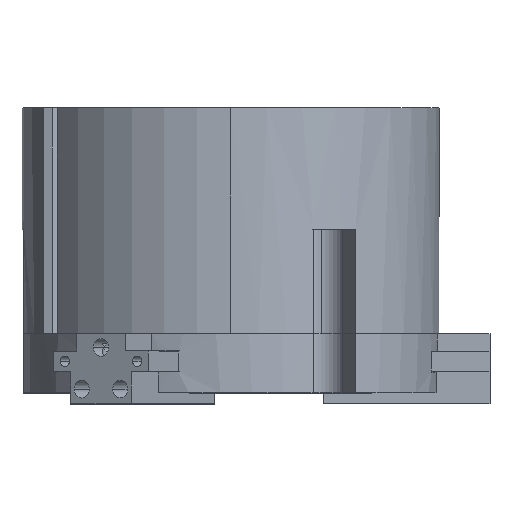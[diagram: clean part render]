
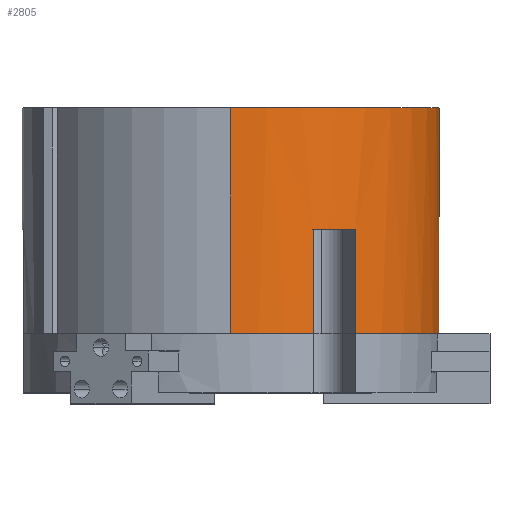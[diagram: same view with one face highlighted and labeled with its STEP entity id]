
A CAD part, top view. The second image highlights one B-rep face of the part: STEP entity #2805.
In plain terms, the highlighted cylindrical face has radius 47.625 mm (diameter 95.25 mm), a partial arc.
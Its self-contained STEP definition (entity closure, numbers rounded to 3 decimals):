
#90 = VERTEX_POINT ( 'NONE', #4009 ) ;
#157 = CIRCLE ( 'NONE', #6486, 47.625 ) ;
#198 = EDGE_LOOP ( 'NONE', ( #3920, #5686, #7518, #6108, #7153, #1523, #5108, #1444, #4834, #3860, #5169, #7348 ) ) ;
#259 = EDGE_CURVE ( 'NONE', #4923, #3107, #5525, .T. ) ;
#352 = VECTOR ( 'NONE', #5604, 1000. ) ;
#394 = DIRECTION ( 'NONE',  ( 0., 1., 0. ) ) ;
#438 = VERTEX_POINT ( 'NONE', #6949 ) ;
#503 = EDGE_CURVE ( 'NONE', #438, #4163, #5070, .T. ) ;
#558 = DIRECTION ( 'NONE',  ( 0., 1., 0. ) ) ;
#633 = CARTESIAN_POINT ( 'NONE',  ( 0., -25.781, 0. ) ) ;
#751 = LINE ( 'NONE', #6745, #352 ) ;
#938 = LINE ( 'NONE', #6716, #5559 ) ;
#953 = CIRCLE ( 'NONE', #3148, 47.625 ) ;
#958 = CYLINDRICAL_SURFACE ( 'NONE', #3527, 47.625 ) ;
#1062 = AXIS2_PLACEMENT_3D ( 'NONE', #5263, #1795, #5854 ) ;
#1225 = CIRCLE ( 'NONE', #3140, 47.625 ) ;
#1234 = DIRECTION ( 'NONE',  ( 0., 0., -1. ) ) ;
#1243 = DIRECTION ( 'NONE',  ( 0., 0., 1. ) ) ;
#1405 = CARTESIAN_POINT ( 'NONE',  ( 28.462, -25.781, 38.185 ) ) ;
#1441 = EDGE_CURVE ( 'NONE', #90, #4163, #6956, .T. ) ;
#1444 = ORIENTED_EDGE ( 'NONE', *, *, #259, .F. ) ;
#1447 = CARTESIAN_POINT ( 'NONE',  ( 0., 25.781, -47.625 ) ) ;
#1523 = ORIENTED_EDGE ( 'NONE', *, *, #4414, .T. ) ;
#1795 = DIRECTION ( 'NONE',  ( 0., -1., 0. ) ) ;
#1854 = CARTESIAN_POINT ( 'NONE',  ( 0., -25.781, 0. ) ) ;
#1856 = VECTOR ( 'NONE', #6079, 1000. ) ;
#2231 = CARTESIAN_POINT ( 'NONE',  ( 18.838, -25.781, 43.741 ) ) ;
#2388 = CARTESIAN_POINT ( 'NONE',  ( 0., 25.781, 47.625 ) ) ;
#2403 = CARTESIAN_POINT ( 'NONE',  ( 28.462, -25.781, -38.185 ) ) ;
#2421 = DIRECTION ( 'NONE',  ( 0., 0., 1. ) ) ;
#2431 = VECTOR ( 'NONE', #6649, 1000. ) ;
#2752 = CARTESIAN_POINT ( 'NONE',  ( 0., -1.981, 0. ) ) ;
#2805 = ADVANCED_FACE ( 'NONE', ( #4052 ), #958, .T. ) ;
#2845 = EDGE_CURVE ( 'NONE', #5756, #7337, #3867, .T. ) ;
#2953 = DIRECTION ( 'NONE',  ( 0., -1., 0. ) ) ;
#2963 = VERTEX_POINT ( 'NONE', #5843 ) ;
#3107 = VERTEX_POINT ( 'NONE', #2403 ) ;
#3140 = AXIS2_PLACEMENT_3D ( 'NONE', #2752, #6806, #3333 ) ;
#3148 = AXIS2_PLACEMENT_3D ( 'NONE', #4063, #558, #4644 ) ;
#3333 = DIRECTION ( 'NONE',  ( 0.866, 0., 0.5 ) ) ;
#3527 = AXIS2_PLACEMENT_3D ( 'NONE', #5274, #2953, #1234 ) ;
#3599 = CARTESIAN_POINT ( 'NONE',  ( 0., -25.781, -47.625 ) ) ;
#3617 = CARTESIAN_POINT ( 'NONE',  ( 28.462, -1.981, 38.185 ) ) ;
#3716 = VECTOR ( 'NONE', #3933, 1000. ) ;
#3860 = ORIENTED_EDGE ( 'NONE', *, *, #6612, .T. ) ;
#3867 = CIRCLE ( 'NONE', #4707, 47.625 ) ;
#3913 = CARTESIAN_POINT ( 'NONE',  ( 0., -25.781, 0. ) ) ;
#3920 = ORIENTED_EDGE ( 'NONE', *, *, #6287, .F. ) ;
#3933 = DIRECTION ( 'NONE',  ( 0., -1., 0. ) ) ;
#4009 = CARTESIAN_POINT ( 'NONE',  ( 0., -25.781, 47.625 ) ) ;
#4052 = FACE_OUTER_BOUND ( 'NONE', #198, .T. ) ;
#4053 = EDGE_CURVE ( 'NONE', #2963, #4923, #1225, .T. ) ;
#4063 = CARTESIAN_POINT ( 'NONE',  ( 0., 25.781, 0. ) ) ;
#4163 = VERTEX_POINT ( 'NONE', #2231 ) ;
#4296 = EDGE_CURVE ( 'NONE', #7363, #438, #5928, .T. ) ;
#4414 = EDGE_CURVE ( 'NONE', #7363, #5969, #938, .T. ) ;
#4452 = EDGE_CURVE ( 'NONE', #6988, #90, #751, .T. ) ;
#4480 = EDGE_CURVE ( 'NONE', #5969, #3107, #157, .T. ) ;
#4498 = DIRECTION ( 'NONE',  ( 0., 0., 1. ) ) ;
#4644 = DIRECTION ( 'NONE',  ( 0., 0., 1. ) ) ;
#4663 = VECTOR ( 'NONE', #6527, 1000. ) ;
#4707 = AXIS2_PLACEMENT_3D ( 'NONE', #1854, #5910, #2421 ) ;
#4718 = DIRECTION ( 'NONE',  ( 0., 1., 0. ) ) ;
#4834 = ORIENTED_EDGE ( 'NONE', *, *, #4053, .F. ) ;
#4835 = CARTESIAN_POINT ( 'NONE',  ( 28.462, -1.981, -38.185 ) ) ;
#4852 = LINE ( 'NONE', #5370, #4663 ) ;
#4923 = VERTEX_POINT ( 'NONE', #4835 ) ;
#5070 = LINE ( 'NONE', #5618, #3716 ) ;
#5108 = ORIENTED_EDGE ( 'NONE', *, *, #4480, .T. ) ;
#5131 = CARTESIAN_POINT ( 'NONE',  ( 18.838, -25.781, -43.741 ) ) ;
#5169 = ORIENTED_EDGE ( 'NONE', *, *, #2845, .T. ) ;
#5263 = CARTESIAN_POINT ( 'NONE',  ( 0., -1.981, 0. ) ) ;
#5274 = CARTESIAN_POINT ( 'NONE',  ( 0., 25.781, 0. ) ) ;
#5370 = CARTESIAN_POINT ( 'NONE',  ( 0., 25.781, -47.625 ) ) ;
#5525 = LINE ( 'NONE', #6592, #2431 ) ;
#5559 = VECTOR ( 'NONE', #7308, 1000. ) ;
#5604 = DIRECTION ( 'NONE',  ( 0., -1., 0. ) ) ;
#5618 = CARTESIAN_POINT ( 'NONE',  ( 18.838, -1.981, 43.741 ) ) ;
#5686 = ORIENTED_EDGE ( 'NONE', *, *, #4452, .T. ) ;
#5756 = VERTEX_POINT ( 'NONE', #5131 ) ;
#5843 = CARTESIAN_POINT ( 'NONE',  ( 18.838, -1.981, -43.741 ) ) ;
#5854 = DIRECTION ( 'NONE',  ( -0.866, 0., 0.5 ) ) ;
#5910 = DIRECTION ( 'NONE',  ( 0., 1., 0. ) ) ;
#5928 = CIRCLE ( 'NONE', #1062, 47.625 ) ;
#5969 = VERTEX_POINT ( 'NONE', #1405 ) ;
#6002 = VERTEX_POINT ( 'NONE', #1447 ) ;
#6079 = DIRECTION ( 'NONE',  ( 0., -1., 0. ) ) ;
#6108 = ORIENTED_EDGE ( 'NONE', *, *, #503, .F. ) ;
#6287 = EDGE_CURVE ( 'NONE', #6988, #6002, #953, .T. ) ;
#6486 = AXIS2_PLACEMENT_3D ( 'NONE', #3913, #394, #4498 ) ;
#6527 = DIRECTION ( 'NONE',  ( 0., -1., 0. ) ) ;
#6592 = CARTESIAN_POINT ( 'NONE',  ( 28.462, -1.981, -38.185 ) ) ;
#6612 = EDGE_CURVE ( 'NONE', #2963, #5756, #6840, .T. ) ;
#6631 = CARTESIAN_POINT ( 'NONE',  ( 18.838, -1.981, -43.741 ) ) ;
#6649 = DIRECTION ( 'NONE',  ( 0., -1., 0. ) ) ;
#6716 = CARTESIAN_POINT ( 'NONE',  ( 28.462, -1.981, 38.185 ) ) ;
#6745 = CARTESIAN_POINT ( 'NONE',  ( 0., 25.781, 47.625 ) ) ;
#6806 = DIRECTION ( 'NONE',  ( 0., -1., 0. ) ) ;
#6840 = LINE ( 'NONE', #6631, #1856 ) ;
#6949 = CARTESIAN_POINT ( 'NONE',  ( 18.838, -1.981, 43.741 ) ) ;
#6956 = CIRCLE ( 'NONE', #7511, 47.625 ) ;
#6988 = VERTEX_POINT ( 'NONE', #2388 ) ;
#7153 = ORIENTED_EDGE ( 'NONE', *, *, #4296, .F. ) ;
#7308 = DIRECTION ( 'NONE',  ( 0., -1., 0. ) ) ;
#7337 = VERTEX_POINT ( 'NONE', #3599 ) ;
#7348 = ORIENTED_EDGE ( 'NONE', *, *, #7382, .F. ) ;
#7363 = VERTEX_POINT ( 'NONE', #3617 ) ;
#7382 = EDGE_CURVE ( 'NONE', #6002, #7337, #4852, .T. ) ;
#7511 = AXIS2_PLACEMENT_3D ( 'NONE', #633, #4718, #1243 ) ;
#7518 = ORIENTED_EDGE ( 'NONE', *, *, #1441, .T. ) ;
